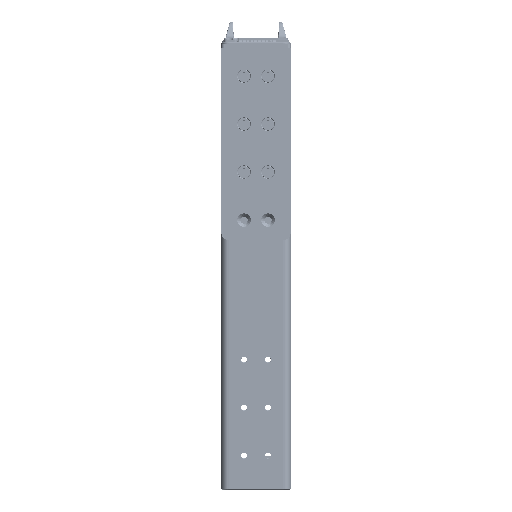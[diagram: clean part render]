
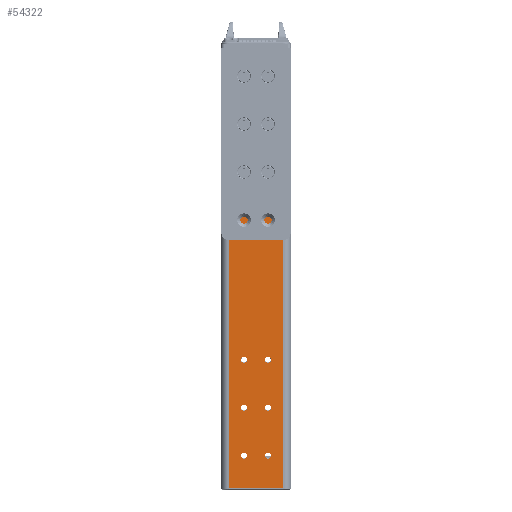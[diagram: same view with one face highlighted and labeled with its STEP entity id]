
A CAD part, left-side view. The second image highlights one B-rep face of the part: STEP entity #54322.
In plain terms, the highlighted planar face has unit normal (-1, 0, 0).
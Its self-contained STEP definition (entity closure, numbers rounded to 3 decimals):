
#49670=DIRECTION('',(0.,-1.,0.));
#49671=VECTOR('',#49670,34.);
#49672=CARTESIAN_POINT('',(-15.,17.,0.));
#49673=LINE('',#49672,#49671);
#50862=DIRECTION('',(0.,-1.,0.));
#50863=VECTOR('',#50862,34.);
#50864=CARTESIAN_POINT('',(-15.,17.,-277.35));
#50865=LINE('',#50864,#50863);
#51075=DIRECTION('',(0.,0.,-1.));
#51076=VECTOR('',#51075,277.35);
#51077=CARTESIAN_POINT('',(-15.,17.,0.));
#51078=LINE('',#51077,#51076);
#51082=CARTESIAN_POINT('',(-15.,7.5,-257.35));
#51083=DIRECTION('',(1.,0.,0.));
#51084=DIRECTION('',(0.,0.,1.));
#51085=AXIS2_PLACEMENT_3D('',#51082,#51083,#51084);
#51090=CARTESIAN_POINT('',(-15.,7.5,-257.35));
#51091=DIRECTION('',(1.,0.,0.));
#51092=DIRECTION('',(0.,0.,-1.));
#51093=AXIS2_PLACEMENT_3D('',#51090,#51091,#51092);
#51098=CARTESIAN_POINT('',(-15.,-7.5,-257.35));
#51099=DIRECTION('',(1.,0.,0.));
#51100=DIRECTION('',(0.,0.,1.));
#51101=AXIS2_PLACEMENT_3D('',#51098,#51099,#51100);
#51106=CARTESIAN_POINT('',(-15.,-7.5,-257.35));
#51107=DIRECTION('',(1.,0.,0.));
#51108=DIRECTION('',(0.,0.,-1.));
#51109=AXIS2_PLACEMENT_3D('',#51106,#51107,#51108);
#51114=CARTESIAN_POINT('',(-15.,7.5,-227.35));
#51115=DIRECTION('',(1.,0.,0.));
#51116=DIRECTION('',(0.,0.,1.));
#51117=AXIS2_PLACEMENT_3D('',#51114,#51115,#51116);
#51122=CARTESIAN_POINT('',(-15.,7.5,-227.35));
#51123=DIRECTION('',(1.,0.,0.));
#51124=DIRECTION('',(0.,0.,-1.));
#51125=AXIS2_PLACEMENT_3D('',#51122,#51123,#51124);
#51130=CARTESIAN_POINT('',(-15.,-7.5,-227.35));
#51131=DIRECTION('',(1.,0.,0.));
#51132=DIRECTION('',(0.,0.,1.));
#51133=AXIS2_PLACEMENT_3D('',#51130,#51131,#51132);
#51138=CARTESIAN_POINT('',(-15.,-7.5,-227.35));
#51139=DIRECTION('',(1.,0.,0.));
#51140=DIRECTION('',(0.,0.,-1.));
#51141=AXIS2_PLACEMENT_3D('',#51138,#51139,#51140);
#51146=CARTESIAN_POINT('',(-15.,7.5,-197.35));
#51147=DIRECTION('',(1.,0.,0.));
#51148=DIRECTION('',(0.,0.,1.));
#51149=AXIS2_PLACEMENT_3D('',#51146,#51147,#51148);
#51154=CARTESIAN_POINT('',(-15.,7.5,-197.35));
#51155=DIRECTION('',(1.,0.,0.));
#51156=DIRECTION('',(0.,0.,-1.));
#51157=AXIS2_PLACEMENT_3D('',#51154,#51155,#51156);
#51162=CARTESIAN_POINT('',(-15.,-7.5,-197.35));
#51163=DIRECTION('',(1.,0.,0.));
#51164=DIRECTION('',(0.,0.,1.));
#51165=AXIS2_PLACEMENT_3D('',#51162,#51163,#51164);
#51170=CARTESIAN_POINT('',(-15.,-7.5,-197.35));
#51171=DIRECTION('',(1.,0.,0.));
#51172=DIRECTION('',(0.,0.,-1.));
#51173=AXIS2_PLACEMENT_3D('',#51170,#51171,#51172);
#51178=CARTESIAN_POINT('',(-15.,7.5,-80.));
#51179=DIRECTION('',(1.,0.,0.));
#51180=DIRECTION('',(0.,0.,1.));
#51181=AXIS2_PLACEMENT_3D('',#51178,#51179,#51180);
#51186=CARTESIAN_POINT('',(-15.,7.5,-80.));
#51187=DIRECTION('',(1.,0.,0.));
#51188=DIRECTION('',(0.,0.,-1.));
#51189=AXIS2_PLACEMENT_3D('',#51186,#51187,#51188);
#51194=CARTESIAN_POINT('',(-15.,-7.5,-80.));
#51195=DIRECTION('',(1.,0.,0.));
#51196=DIRECTION('',(0.,0.,1.));
#51197=AXIS2_PLACEMENT_3D('',#51194,#51195,#51196);
#51202=CARTESIAN_POINT('',(-15.,-7.5,-80.));
#51203=DIRECTION('',(1.,0.,0.));
#51204=DIRECTION('',(0.,0.,-1.));
#51205=AXIS2_PLACEMENT_3D('',#51202,#51203,#51204);
#51210=CARTESIAN_POINT('',(-15.,7.5,-50.));
#51211=DIRECTION('',(1.,0.,0.));
#51212=DIRECTION('',(0.,0.,1.));
#51213=AXIS2_PLACEMENT_3D('',#51210,#51211,#51212);
#51218=CARTESIAN_POINT('',(-15.,7.5,-50.));
#51219=DIRECTION('',(1.,0.,0.));
#51220=DIRECTION('',(0.,0.,-1.));
#51221=AXIS2_PLACEMENT_3D('',#51218,#51219,#51220);
#51226=CARTESIAN_POINT('',(-15.,-7.5,-50.));
#51227=DIRECTION('',(1.,0.,0.));
#51228=DIRECTION('',(0.,0.,1.));
#51229=AXIS2_PLACEMENT_3D('',#51226,#51227,#51228);
#51234=CARTESIAN_POINT('',(-15.,-7.5,-50.));
#51235=DIRECTION('',(1.,0.,0.));
#51236=DIRECTION('',(0.,0.,-1.));
#51237=AXIS2_PLACEMENT_3D('',#51234,#51235,#51236);
#51242=CARTESIAN_POINT('',(-15.,7.5,-20.));
#51243=DIRECTION('',(1.,0.,0.));
#51244=DIRECTION('',(0.,0.,1.));
#51245=AXIS2_PLACEMENT_3D('',#51242,#51243,#51244);
#51250=CARTESIAN_POINT('',(-15.,7.5,-20.));
#51251=DIRECTION('',(1.,0.,0.));
#51252=DIRECTION('',(0.,0.,-1.));
#51253=AXIS2_PLACEMENT_3D('',#51250,#51251,#51252);
#51258=CARTESIAN_POINT('',(-15.,-7.5,-20.));
#51259=DIRECTION('',(1.,0.,0.));
#51260=DIRECTION('',(0.,0.,1.));
#51261=AXIS2_PLACEMENT_3D('',#51258,#51259,#51260);
#51266=CARTESIAN_POINT('',(-15.,-7.5,-20.));
#51267=DIRECTION('',(1.,0.,0.));
#51268=DIRECTION('',(0.,0.,-1.));
#51269=AXIS2_PLACEMENT_3D('',#51266,#51267,#51268);
#51274=DIRECTION('',(0.,0.,-1.));
#51275=VECTOR('',#51274,277.35);
#51276=CARTESIAN_POINT('',(-15.,-17.,0.));
#51277=LINE('',#51276,#51275);
#52306=CARTESIAN_POINT('',(-15.,17.,0.));
#52308=VERTEX_POINT('',#52306);
#52309=CARTESIAN_POINT('',(-15.,-17.,0.));
#52310=VERTEX_POINT('',#52309);
#52314=CARTESIAN_POINT('',(-15.,17.,-277.35));
#52316=VERTEX_POINT('',#52314);
#52317=CARTESIAN_POINT('',(-15.,-17.,-277.35));
#52318=VERTEX_POINT('',#52317);
#52409=CARTESIAN_POINT('',(-15.,7.5,-255.4));
#52410=CARTESIAN_POINT('',(-15.,7.5,-259.3));
#52411=VERTEX_POINT('',#52409);
#52412=VERTEX_POINT('',#52410);
#52417=CARTESIAN_POINT('',(-15.,-7.5,-255.4));
#52418=CARTESIAN_POINT('',(-15.,-7.5,-259.3));
#52419=VERTEX_POINT('',#52417);
#52420=VERTEX_POINT('',#52418);
#52425=CARTESIAN_POINT('',(-15.,7.5,-225.4));
#52426=CARTESIAN_POINT('',(-15.,7.5,-229.3));
#52427=VERTEX_POINT('',#52425);
#52428=VERTEX_POINT('',#52426);
#52433=CARTESIAN_POINT('',(-15.,-7.5,-225.4));
#52434=CARTESIAN_POINT('',(-15.,-7.5,-229.3));
#52435=VERTEX_POINT('',#52433);
#52436=VERTEX_POINT('',#52434);
#52441=CARTESIAN_POINT('',(-15.,7.5,-195.4));
#52442=CARTESIAN_POINT('',(-15.,7.5,-199.3));
#52443=VERTEX_POINT('',#52441);
#52444=VERTEX_POINT('',#52442);
#52449=CARTESIAN_POINT('',(-15.,-7.5,-195.4));
#52450=CARTESIAN_POINT('',(-15.,-7.5,-199.3));
#52451=VERTEX_POINT('',#52449);
#52452=VERTEX_POINT('',#52450);
#52457=CARTESIAN_POINT('',(-15.,7.5,-78.05));
#52458=CARTESIAN_POINT('',(-15.,7.5,-81.95));
#52459=VERTEX_POINT('',#52457);
#52460=VERTEX_POINT('',#52458);
#52465=CARTESIAN_POINT('',(-15.,-7.5,-78.05));
#52466=CARTESIAN_POINT('',(-15.,-7.5,-81.95));
#52467=VERTEX_POINT('',#52465);
#52468=VERTEX_POINT('',#52466);
#52473=CARTESIAN_POINT('',(-15.,7.5,-48.05));
#52474=CARTESIAN_POINT('',(-15.,7.5,-51.95));
#52475=VERTEX_POINT('',#52473);
#52476=VERTEX_POINT('',#52474);
#52481=CARTESIAN_POINT('',(-15.,-7.5,-48.05));
#52482=CARTESIAN_POINT('',(-15.,-7.5,-51.95));
#52483=VERTEX_POINT('',#52481);
#52484=VERTEX_POINT('',#52482);
#52489=CARTESIAN_POINT('',(-15.,7.5,-18.05));
#52490=CARTESIAN_POINT('',(-15.,7.5,-21.95));
#52491=VERTEX_POINT('',#52489);
#52492=VERTEX_POINT('',#52490);
#52497=CARTESIAN_POINT('',(-15.,-7.5,-18.05));
#52498=CARTESIAN_POINT('',(-15.,-7.5,-21.95));
#52499=VERTEX_POINT('',#52497);
#52500=VERTEX_POINT('',#52498);
#54238=CARTESIAN_POINT('',(-15.,17.,0.));
#54239=DIRECTION('',(-1.,0.,0.));
#54240=DIRECTION('',(0.,-1.,0.));
#54241=AXIS2_PLACEMENT_3D('',#54238,#54239,#54240);
#54242=PLANE('',#54241);
#54243=ORIENTED_EDGE('',*,*,#52846,.T.);
#54245=ORIENTED_EDGE('',*,*,#54244,.T.);
#54246=ORIENTED_EDGE('',*,*,#54048,.F.);
#54247=ORIENTED_EDGE('',*,*,#54219,.F.);
#54248=EDGE_LOOP('',(#54243,#54245,#54246,#54247));
#54249=FACE_OUTER_BOUND('',#54248,.F.);
#54251=ORIENTED_EDGE('',*,*,#54250,.F.);
#54253=ORIENTED_EDGE('',*,*,#54252,.F.);
#54254=EDGE_LOOP('',(#54251,#54253));
#54255=FACE_BOUND('',#54254,.F.);
#54257=ORIENTED_EDGE('',*,*,#54256,.F.);
#54259=ORIENTED_EDGE('',*,*,#54258,.F.);
#54260=EDGE_LOOP('',(#54257,#54259));
#54261=FACE_BOUND('',#54260,.F.);
#54263=ORIENTED_EDGE('',*,*,#54262,.F.);
#54265=ORIENTED_EDGE('',*,*,#54264,.F.);
#54266=EDGE_LOOP('',(#54263,#54265));
#54267=FACE_BOUND('',#54266,.F.);
#54269=ORIENTED_EDGE('',*,*,#54268,.F.);
#54271=ORIENTED_EDGE('',*,*,#54270,.F.);
#54272=EDGE_LOOP('',(#54269,#54271));
#54273=FACE_BOUND('',#54272,.F.);
#54275=ORIENTED_EDGE('',*,*,#54274,.F.);
#54277=ORIENTED_EDGE('',*,*,#54276,.F.);
#54278=EDGE_LOOP('',(#54275,#54277));
#54279=FACE_BOUND('',#54278,.F.);
#54281=ORIENTED_EDGE('',*,*,#54280,.F.);
#54283=ORIENTED_EDGE('',*,*,#54282,.F.);
#54284=EDGE_LOOP('',(#54281,#54283));
#54285=FACE_BOUND('',#54284,.F.);
#54287=ORIENTED_EDGE('',*,*,#54286,.F.);
#54289=ORIENTED_EDGE('',*,*,#54288,.F.);
#54290=EDGE_LOOP('',(#54287,#54289));
#54291=FACE_BOUND('',#54290,.F.);
#54293=ORIENTED_EDGE('',*,*,#54292,.F.);
#54295=ORIENTED_EDGE('',*,*,#54294,.F.);
#54296=EDGE_LOOP('',(#54293,#54295));
#54297=FACE_BOUND('',#54296,.F.);
#54299=ORIENTED_EDGE('',*,*,#54298,.F.);
#54301=ORIENTED_EDGE('',*,*,#54300,.F.);
#54302=EDGE_LOOP('',(#54299,#54301));
#54303=FACE_BOUND('',#54302,.F.);
#54305=ORIENTED_EDGE('',*,*,#54304,.F.);
#54307=ORIENTED_EDGE('',*,*,#54306,.F.);
#54308=EDGE_LOOP('',(#54305,#54307));
#54309=FACE_BOUND('',#54308,.F.);
#54311=ORIENTED_EDGE('',*,*,#54310,.F.);
#54313=ORIENTED_EDGE('',*,*,#54312,.F.);
#54314=EDGE_LOOP('',(#54311,#54313));
#54315=FACE_BOUND('',#54314,.F.);
#54317=ORIENTED_EDGE('',*,*,#54316,.F.);
#54319=ORIENTED_EDGE('',*,*,#54318,.F.);
#54320=EDGE_LOOP('',(#54317,#54319));
#54321=FACE_BOUND('',#54320,.F.);
#51086=CIRCLE('',#51085,1.95);
#51094=CIRCLE('',#51093,1.95);
#51102=CIRCLE('',#51101,1.95);
#51110=CIRCLE('',#51109,1.95);
#51118=CIRCLE('',#51117,1.95);
#51126=CIRCLE('',#51125,1.95);
#51134=CIRCLE('',#51133,1.95);
#51142=CIRCLE('',#51141,1.95);
#51150=CIRCLE('',#51149,1.95);
#51158=CIRCLE('',#51157,1.95);
#51166=CIRCLE('',#51165,1.95);
#51174=CIRCLE('',#51173,1.95);
#51182=CIRCLE('',#51181,1.95);
#51190=CIRCLE('',#51189,1.95);
#51198=CIRCLE('',#51197,1.95);
#51206=CIRCLE('',#51205,1.95);
#51214=CIRCLE('',#51213,1.95);
#51222=CIRCLE('',#51221,1.95);
#51230=CIRCLE('',#51229,1.95);
#51238=CIRCLE('',#51237,1.95);
#51246=CIRCLE('',#51245,1.95);
#51254=CIRCLE('',#51253,1.95);
#51262=CIRCLE('',#51261,1.95);
#51270=CIRCLE('',#51269,1.95);
#52846=EDGE_CURVE('',#52308,#52310,#49673,.T.);
#54048=EDGE_CURVE('',#52316,#52318,#50865,.T.);
#54219=EDGE_CURVE('',#52308,#52316,#51078,.T.);
#54244=EDGE_CURVE('',#52310,#52318,#51277,.T.);
#54250=EDGE_CURVE('',#52411,#52412,#51086,.T.);
#54252=EDGE_CURVE('',#52412,#52411,#51094,.T.);
#54256=EDGE_CURVE('',#52419,#52420,#51102,.T.);
#54258=EDGE_CURVE('',#52420,#52419,#51110,.T.);
#54262=EDGE_CURVE('',#52427,#52428,#51118,.T.);
#54264=EDGE_CURVE('',#52428,#52427,#51126,.T.);
#54268=EDGE_CURVE('',#52435,#52436,#51134,.T.);
#54270=EDGE_CURVE('',#52436,#52435,#51142,.T.);
#54274=EDGE_CURVE('',#52443,#52444,#51150,.T.);
#54276=EDGE_CURVE('',#52444,#52443,#51158,.T.);
#54280=EDGE_CURVE('',#52451,#52452,#51166,.T.);
#54282=EDGE_CURVE('',#52452,#52451,#51174,.T.);
#54286=EDGE_CURVE('',#52459,#52460,#51182,.T.);
#54288=EDGE_CURVE('',#52460,#52459,#51190,.T.);
#54292=EDGE_CURVE('',#52467,#52468,#51198,.T.);
#54294=EDGE_CURVE('',#52468,#52467,#51206,.T.);
#54298=EDGE_CURVE('',#52475,#52476,#51214,.T.);
#54300=EDGE_CURVE('',#52476,#52475,#51222,.T.);
#54304=EDGE_CURVE('',#52483,#52484,#51230,.T.);
#54306=EDGE_CURVE('',#52484,#52483,#51238,.T.);
#54310=EDGE_CURVE('',#52491,#52492,#51246,.T.);
#54312=EDGE_CURVE('',#52492,#52491,#51254,.T.);
#54316=EDGE_CURVE('',#52499,#52500,#51262,.T.);
#54318=EDGE_CURVE('',#52500,#52499,#51270,.T.);
#54322=ADVANCED_FACE('',(#54249,#54255,#54261,#54267,#54273,#54279,#54285,
#54291,#54297,#54303,#54309,#54315,#54321),#54242,.T.);
